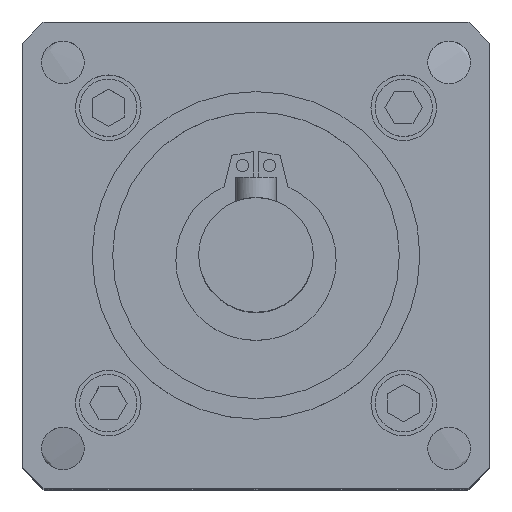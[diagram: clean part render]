
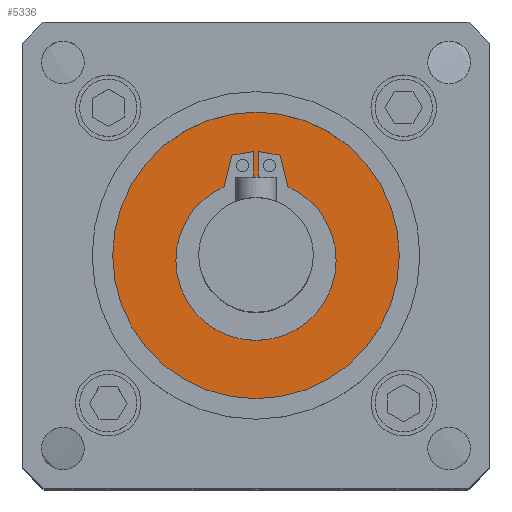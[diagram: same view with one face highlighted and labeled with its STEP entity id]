
A CAD part, top view. The second image highlights one B-rep face of the part: STEP entity #5336.
In plain terms, the highlighted planar face has unit normal (0, 0, 1).
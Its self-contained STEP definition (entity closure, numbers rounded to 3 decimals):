
#9 = VERTEX_POINT ( 'NONE', #7192 ) ;
#106 = DIRECTION ( 'NONE',  ( 1., 0., 0. ) ) ;
#162 = CIRCLE ( 'NONE', #7954, 9.785 ) ;
#464 = CARTESIAN_POINT ( 'NONE',  ( -17.5, 0., 81. ) ) ;
#467 = DIRECTION ( 'NONE',  ( 0., -1., 0. ) ) ;
#583 = VECTOR ( 'NONE', #7303, 1000. ) ;
#624 = ORIENTED_EDGE ( 'NONE', *, *, #3934, .F. ) ;
#636 = CARTESIAN_POINT ( 'NONE',  ( -0.3, 9.185, 81. ) ) ;
#650 = VERTEX_POINT ( 'NONE', #3322 ) ;
#753 = LINE ( 'NONE', #2591, #4792 ) ;
#787 = DIRECTION ( 'NONE',  ( 0., 0., 1. ) ) ;
#819 = DIRECTION ( 'NONE',  ( 1., 0., 0. ) ) ;
#863 = LINE ( 'NONE', #6956, #1398 ) ;
#864 = DIRECTION ( 'NONE',  ( 0., 0., 1. ) ) ;
#976 = CARTESIAN_POINT ( 'NONE',  ( 0., -0.6, 81. ) ) ;
#1209 = ORIENTED_EDGE ( 'NONE', *, *, #1820, .T. ) ;
#1354 = DIRECTION ( 'NONE',  ( 0., 1., 0. ) ) ;
#1398 = VECTOR ( 'NONE', #1354, 1000. ) ;
#1492 = EDGE_CURVE ( 'NONE', #6128, #5969, #6387, .T. ) ;
#1497 = CIRCLE ( 'NONE', #6035, 17.5 ) ;
#1518 = VERTEX_POINT ( 'NONE', #6345 ) ;
#1526 = CARTESIAN_POINT ( 'NONE',  ( -0.3, 12.685, 81. ) ) ;
#1726 = ORIENTED_EDGE ( 'NONE', *, *, #2790, .F. ) ;
#1782 = VECTOR ( 'NONE', #5402, 1000. ) ;
#1820 = EDGE_CURVE ( 'NONE', #3175, #4075, #7665, .T. ) ;
#1977 = DIRECTION ( 'NONE',  ( 1., 0., 0. ) ) ;
#2119 = CARTESIAN_POINT ( 'NONE',  ( 0., 0., 81. ) ) ;
#2125 = AXIS2_PLACEMENT_3D ( 'NONE', #3192, #787, #3234 ) ;
#2202 = VERTEX_POINT ( 'NONE', #4474 ) ;
#2268 = ORIENTED_EDGE ( 'NONE', *, *, #7890, .F. ) ;
#2318 = CARTESIAN_POINT ( 'NONE',  ( 0.3, 9.185, 81. ) ) ;
#2324 = DIRECTION ( 'NONE',  ( 1., 0., 0. ) ) ;
#2469 = CARTESIAN_POINT ( 'NONE',  ( 9.785, -0.6, 81. ) ) ;
#2591 = CARTESIAN_POINT ( 'NONE',  ( -2.959, 12.216, 81. ) ) ;
#2643 = VERTEX_POINT ( 'NONE', #3893 ) ;
#2654 = CARTESIAN_POINT ( 'NONE',  ( 0., 0., 81. ) ) ;
#2740 = CARTESIAN_POINT ( 'NONE',  ( 0., 0., 81. ) ) ;
#2790 = EDGE_CURVE ( 'NONE', #4268, #6128, #162, .T. ) ;
#2965 = CARTESIAN_POINT ( 'NONE',  ( 17.5, 0., 81. ) ) ;
#3175 = VERTEX_POINT ( 'NONE', #464 ) ;
#3192 = CARTESIAN_POINT ( 'NONE',  ( 0., -0.6, 81. ) ) ;
#3234 = DIRECTION ( 'NONE',  ( 1., 0., 0. ) ) ;
#3322 = CARTESIAN_POINT ( 'NONE',  ( 3.89, 8.378, 81. ) ) ;
#3328 = PLANE ( 'NONE',  #4223 ) ;
#3405 = CARTESIAN_POINT ( 'NONE',  ( 2.959, 12.216, 81. ) ) ;
#3762 = EDGE_LOOP ( 'NONE', ( #1209, #5857 ) ) ;
#3870 = ORIENTED_EDGE ( 'NONE', *, *, #7296, .F. ) ;
#3893 = CARTESIAN_POINT ( 'NONE',  ( -2.959, 12.216, 81. ) ) ;
#3934 = EDGE_CURVE ( 'NONE', #5969, #650, #6157, .T. ) ;
#3935 = FACE_BOUND ( 'NONE', #7084, .T. ) ;
#4019 = DIRECTION ( 'NONE',  ( 0., 0., 1. ) ) ;
#4022 = EDGE_CURVE ( 'NONE', #6838, #7277, #6154, .T. ) ;
#4075 = VERTEX_POINT ( 'NONE', #2965 ) ;
#4175 = AXIS2_PLACEMENT_3D ( 'NONE', #2740, #7600, #1977 ) ;
#4223 = AXIS2_PLACEMENT_3D ( 'NONE', #2119, #4590, #5694 ) ;
#4268 = VERTEX_POINT ( 'NONE', #7319 ) ;
#4457 = EDGE_CURVE ( 'NONE', #1518, #6838, #6957, .T. ) ;
#4474 = CARTESIAN_POINT ( 'NONE',  ( -0.3, 12.685, 81. ) ) ;
#4475 = EDGE_CURVE ( 'NONE', #4075, #3175, #1497, .T. ) ;
#4539 = CARTESIAN_POINT ( 'NONE',  ( 0., -0.6, 81. ) ) ;
#4577 = DIRECTION ( 'NONE',  ( -0.236, -0.972, 0. ) ) ;
#4590 = DIRECTION ( 'NONE',  ( 0., 0., -1. ) ) ;
#4623 = DIRECTION ( 'NONE',  ( -1., 0., 0. ) ) ;
#4672 = CARTESIAN_POINT ( 'NONE',  ( 0.3, 12.685, 81. ) ) ;
#4705 = ORIENTED_EDGE ( 'NONE', *, *, #4457, .F. ) ;
#4792 = VECTOR ( 'NONE', #4577, 1000. ) ;
#4934 = ORIENTED_EDGE ( 'NONE', *, *, #5478, .F. ) ;
#4940 = CARTESIAN_POINT ( 'NONE',  ( 0.3, 12.685, 81. ) ) ;
#5042 = EDGE_CURVE ( 'NONE', #2202, #2643, #5910, .T. ) ;
#5115 = DIRECTION ( 'NONE',  ( 0., 0., 1. ) ) ;
#5336 = ADVANCED_FACE ( 'NONE', ( #3935, #6493 ), #3328, .F. ) ;
#5393 = VECTOR ( 'NONE', #5541, 1000. ) ;
#5402 = DIRECTION ( 'NONE',  ( -0.236, 0.972, 0. ) ) ;
#5478 = EDGE_CURVE ( 'NONE', #650, #1518, #5972, .T. ) ;
#5541 = DIRECTION ( 'NONE',  ( -0.985, 0.174, 0. ) ) ;
#5694 = DIRECTION ( 'NONE',  ( -1., 0., 0. ) ) ;
#5857 = ORIENTED_EDGE ( 'NONE', *, *, #4475, .T. ) ;
#5907 = VECTOR ( 'NONE', #467, 1000. ) ;
#5910 = LINE ( 'NONE', #1526, #583 ) ;
#5969 = VERTEX_POINT ( 'NONE', #2469 ) ;
#5972 = LINE ( 'NONE', #3405, #1782 ) ;
#6035 = AXIS2_PLACEMENT_3D ( 'NONE', #2654, #864, #819 ) ;
#6128 = VERTEX_POINT ( 'NONE', #7681 ) ;
#6154 = LINE ( 'NONE', #2318, #5907 ) ;
#6157 = CIRCLE ( 'NONE', #7194, 9.785 ) ;
#6345 = CARTESIAN_POINT ( 'NONE',  ( 2.959, 12.216, 81. ) ) ;
#6387 = CIRCLE ( 'NONE', #2125, 9.785 ) ;
#6493 = FACE_OUTER_BOUND ( 'NONE', #3762, .T. ) ;
#6674 = CARTESIAN_POINT ( 'NONE',  ( 0.3, 9.185, 81. ) ) ;
#6692 = EDGE_CURVE ( 'NONE', #7277, #9, #7692, .T. ) ;
#6742 = ORIENTED_EDGE ( 'NONE', *, *, #5042, .F. ) ;
#6776 = ORIENTED_EDGE ( 'NONE', *, *, #6692, .F. ) ;
#6838 = VERTEX_POINT ( 'NONE', #4672 ) ;
#6956 = CARTESIAN_POINT ( 'NONE',  ( -0.3, 9.185, 81. ) ) ;
#6957 = LINE ( 'NONE', #4940, #5393 ) ;
#7084 = EDGE_LOOP ( 'NONE', ( #1726, #2268, #6742, #3870, #6776, #7795, #4705, #4934, #624, #7887 ) ) ;
#7192 = CARTESIAN_POINT ( 'NONE',  ( -0.3, 9.185, 81. ) ) ;
#7194 = AXIS2_PLACEMENT_3D ( 'NONE', #4539, #5115, #106 ) ;
#7277 = VERTEX_POINT ( 'NONE', #6674 ) ;
#7296 = EDGE_CURVE ( 'NONE', #9, #2202, #863, .T. ) ;
#7303 = DIRECTION ( 'NONE',  ( -0.985, -0.174, 0. ) ) ;
#7319 = CARTESIAN_POINT ( 'NONE',  ( -3.89, 8.378, 81. ) ) ;
#7600 = DIRECTION ( 'NONE',  ( 0., 0., 1. ) ) ;
#7665 = CIRCLE ( 'NONE', #4175, 17.5 ) ;
#7681 = CARTESIAN_POINT ( 'NONE',  ( -9.785, -0.6, 81. ) ) ;
#7692 = LINE ( 'NONE', #636, #7997 ) ;
#7795 = ORIENTED_EDGE ( 'NONE', *, *, #4022, .F. ) ;
#7887 = ORIENTED_EDGE ( 'NONE', *, *, #1492, .F. ) ;
#7890 = EDGE_CURVE ( 'NONE', #2643, #4268, #753, .T. ) ;
#7954 = AXIS2_PLACEMENT_3D ( 'NONE', #976, #4019, #2324 ) ;
#7997 = VECTOR ( 'NONE', #4623, 1000. ) ;
